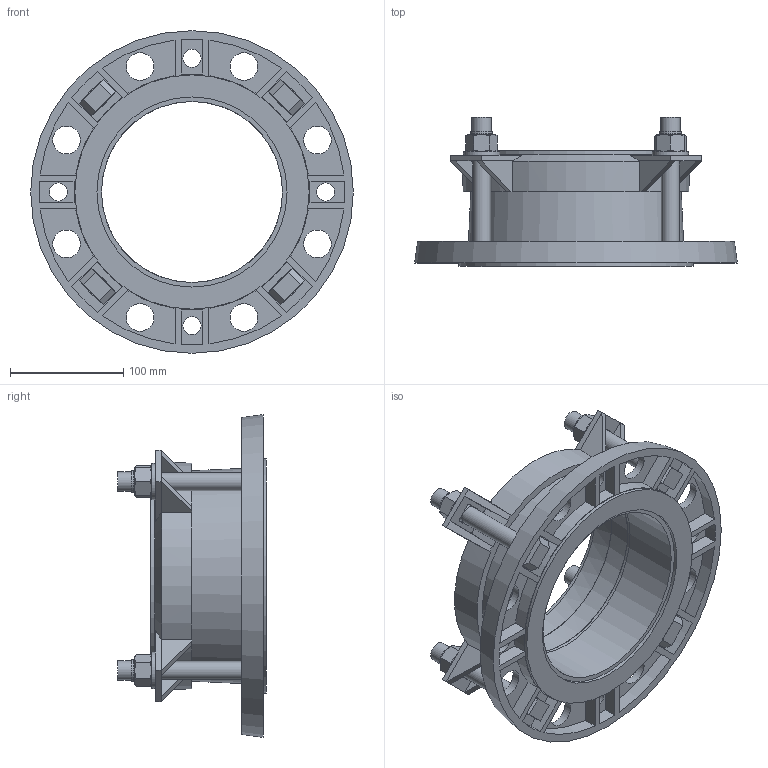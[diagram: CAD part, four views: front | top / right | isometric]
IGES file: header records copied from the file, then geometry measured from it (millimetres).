
Start section: SolidWorks IGES file using analytic representation for surfaces
Global section: file name: \\avksan2\techshare\PBM outline export from Enovia\O_623_10_DN150-160mm_X1XXXXX_REV01.igs; native system: SolidWorks 2019; preprocessor: SolidWorks 2019; author: pbm; date: 200417.105314; units: millimetre
Bounding box: 285 x 131.5 x 285 mm (x, y, z)
Surface area: 286881.4 mm2 (no closed solid volume)
Topology: 0 solids, 0 shells, 403 faces, 1940 edges, 1885 vertices
Faces by surface type: bspline 236, revolution 167
